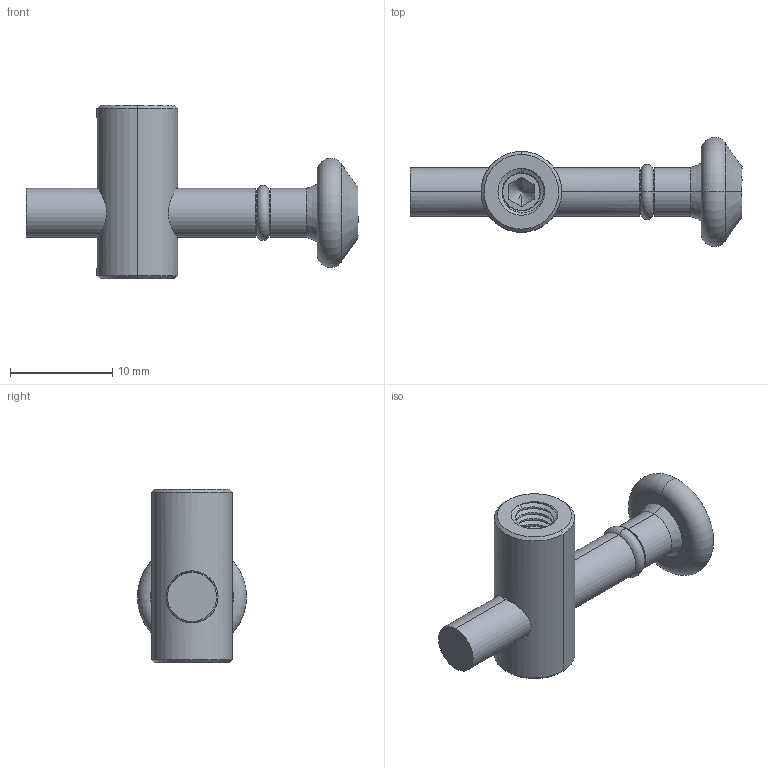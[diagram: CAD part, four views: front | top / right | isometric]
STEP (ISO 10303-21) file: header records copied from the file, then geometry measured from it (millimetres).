
FILE_DESCRIPTION (( 'STEP AP214' ), '1' );
FILE_NAME ('5316.STEP', '2024-11-22T11:29:53', ( 'Àëåêñåé' ), ( '' ), 'SwSTEP 2.0', 'SolidWorks 2022', '' );
FILE_SCHEMA (( 'AUTOMOTIVE_DESIGN' ));
Length unit declared in the file: millimetre
Products named in the file (4): 5316-2; 5316-1; 5316; 5316-3
Assembly tree (3 placements, depth 2):
  5316
    5316-1
    5316-2
    5316-3
Bounding box: 32.5 x 10.7 x 17 mm (x, y, z)
Volume: 1395.2 mm3; surface area: 1634.1 mm2
Topology: 4 solids, 4 shells, 106 faces, 275 edges, 177 vertices
Faces by surface type: cylinder 54, cone 18, plane 18, bspline 12, torus 4
Entity records: 9666 total; most frequent: CARTESIAN_POINT 7236, ORIENTED_EDGE 546, DIRECTION 377, EDGE_CURVE 273, VERTEX_POINT 177, AXIS2_PLACEMENT_3D 147, EDGE_LOOP 114, FACE_OUTER_BOUND 106
